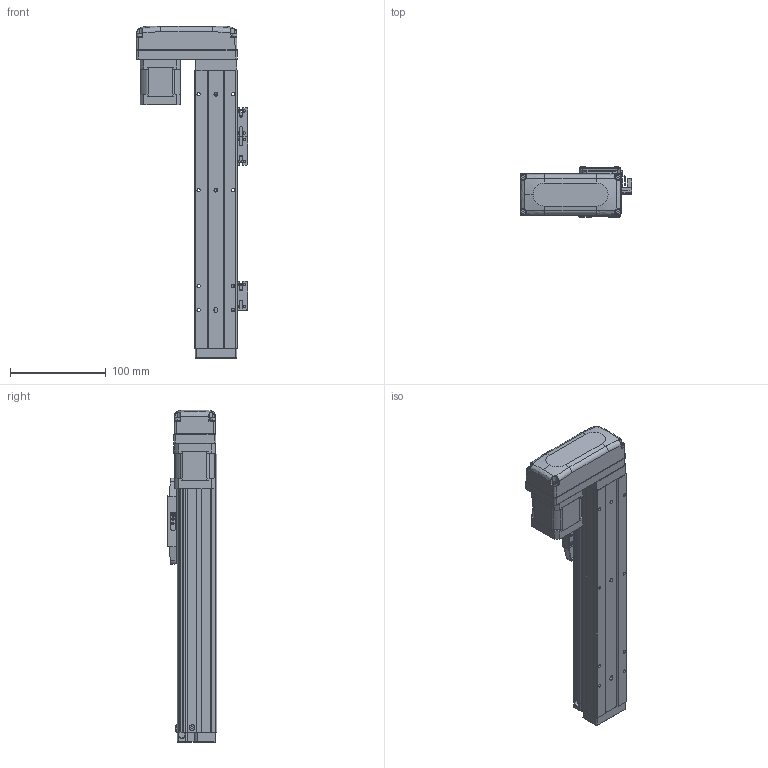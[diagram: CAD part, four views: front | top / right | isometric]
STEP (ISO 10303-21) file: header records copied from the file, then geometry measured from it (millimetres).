
FILE_DESCRIPTION (( 'STEP AP203' ), '1' );
FILE_NAME ('GTH4-150-BR-B42-C4.step', '2023-02-14T00:25:24', ( '微软用户' ), ( '微软中国' ), 'SwSTEP 2.0', 'SolidWorks 2020', '' );
FILE_SCHEMA (( 'CONFIG_CONTROL_DESIGN' ));
Length unit declared in the file: millimetre
Products named in the file (19): BTH40-013; BTH40-001-50_BTH40-001-150; BTH50-024; GBT 70.3-M3℅6; BTH40-003; GBT 70.1-M3℅6; BTH40-027-1; BTH40-006; GBT96.1-2002 3×0.8; BTH50-026; BTH-M3X5X6; BTH40-022; 42CM06; GBT70.1-2000 M3×16; GBT 70.1-M2.5×6; GTH4-150-BR-B42-C4; BTH50-028; BTH40-004; BTH50-023
Assembly tree (47 placements, depth 2):
  GTH4-150-BR-B42-C4
    BTH40-001-50_BTH40-001-150
    BTH40-003
    BTH40-006
    BTH-M3X5X6  x8
    GBT70.1-2000 M3×16  x4
    BTH50-028  x2
    BTH50-023  x3
    BTH50-024  x3
    GBT 70.1-M3℅6  x6
    GBT96.1-2002 3×0.8  x6
    BTH40-022
    GBT 70.1-M2.5×6  x2
    BTH40-004
    BTH40-013
    GBT 70.3-M3℅6  x4
    BTH40-027-1
    BTH50-026
    42CM06
Bounding box: 116.2 x 52 x 346 mm (x, y, z)
Volume: 708758.3 mm3; surface area: 168519 mm2
Topology: 56 solids, 56 shells, 3327 faces, 7748 edges, 4630 vertices
Faces by surface type: cone 1508, plane 1076, cylinder 565, torus 124, bspline 42, sphere 12
Entity records: 77594 total; most frequent: CARTESIAN_POINT 13993, DIRECTION 13789, ORIENTED_EDGE 12142, EDGE_CURVE 6071, AXIS2_PLACEMENT_3D 5289, VERTEX_POINT 3617, VECTOR 3211, LINE 3211
